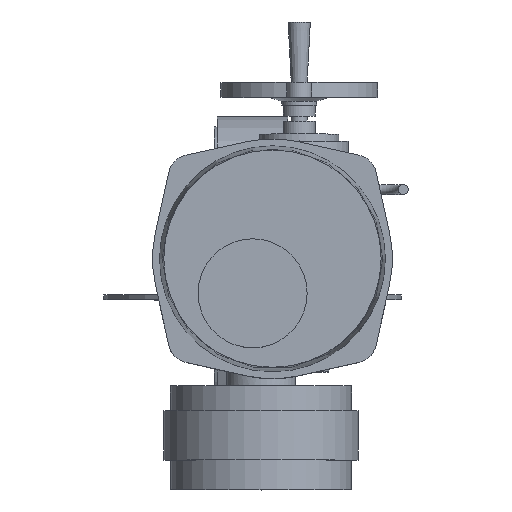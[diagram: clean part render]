
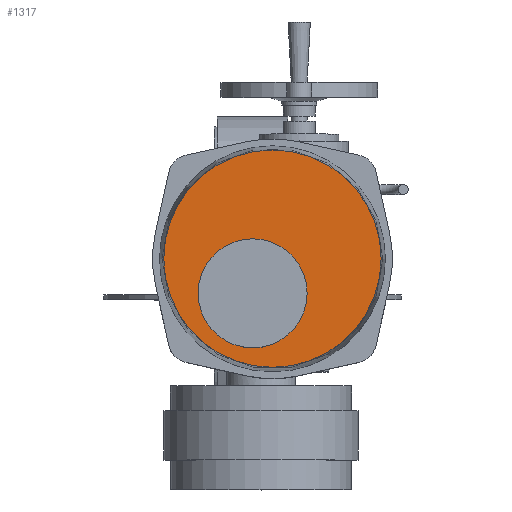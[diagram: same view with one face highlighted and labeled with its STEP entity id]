
A CAD part, top view. The second image highlights one B-rep face of the part: STEP entity #1317.
In plain terms, the highlighted planar face has unit normal (0, 0, 1).
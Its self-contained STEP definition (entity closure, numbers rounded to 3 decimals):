
#1317=ADVANCED_FACE('',(#2839,#2841),#2843,.T.);
#2839=FACE_BOUND('',#2840,.T.);
#2840=EDGE_LOOP('',(#3831));
#2841=FACE_BOUND('',#2842,.T.);
#2842=EDGE_LOOP('',(#3832));
#2843=PLANE('',#2844);
#2844=AXIS2_PLACEMENT_3D('',#2845,#2846,#2847);
#2845=CARTESIAN_POINT('',(20.,38.,597.));
#2846=DIRECTION('',(0.,0.,1.));
#2847=DIRECTION('',(-1.,0.,0.));
#3831=ORIENTED_EDGE('',*,*,#4310,.T.);
#3832=ORIENTED_EDGE('',*,*,#4315,.F.);
#4310=EDGE_CURVE('',#4927,#4927,#4928,.T.);
#4315=EDGE_CURVE('',#4937,#4937,#4938,.T.);
#4927=VERTEX_POINT('',#7950);
#4928=CIRCLE('',#7951,109.703);
#4937=VERTEX_POINT('',#7975);
#4938=CIRCLE('',#7976,55.);
#7950=CARTESIAN_POINT('',(-89.703,38.,597.));
#7951=AXIS2_PLACEMENT_3D('',#7952,#7953,#7954);
#7952=CARTESIAN_POINT('',(20.,38.,597.));
#7953=DIRECTION('',(0.,0.,1.));
#7954=DIRECTION('',(-1.,0.,0.));
#7975=CARTESIAN_POINT('',(-55.,3.,597.));
#7976=AXIS2_PLACEMENT_3D('',#7977,#7978,#7979);
#7977=CARTESIAN_POINT('',(0.,3.,597.));
#7978=DIRECTION('',(0.,0.,1.));
#7979=DIRECTION('',(-1.,0.,0.));
